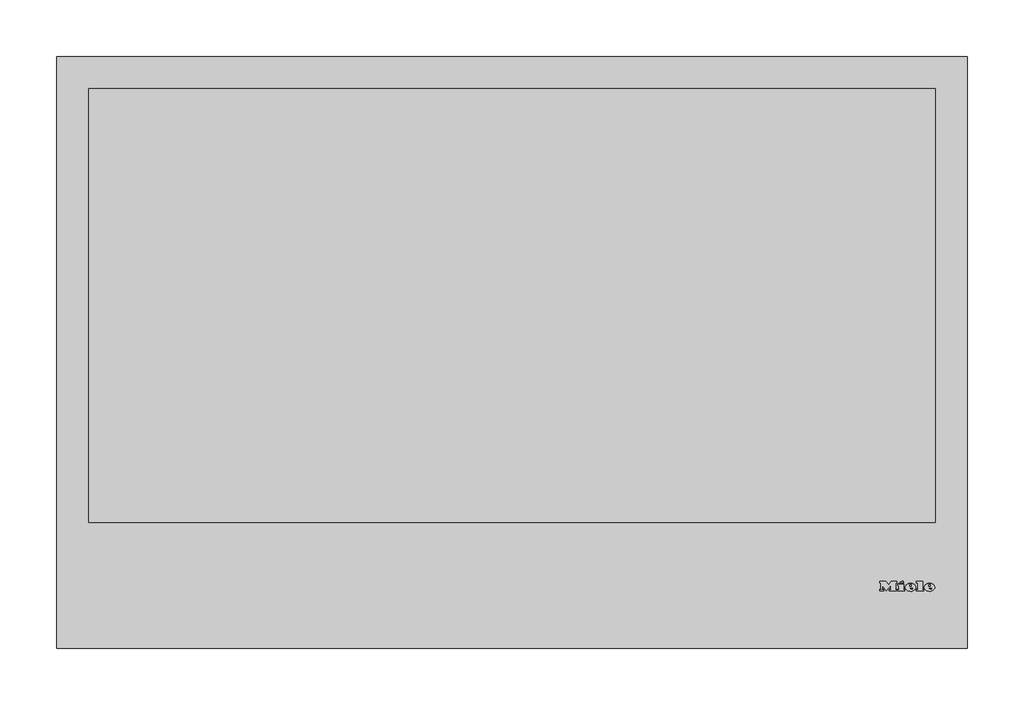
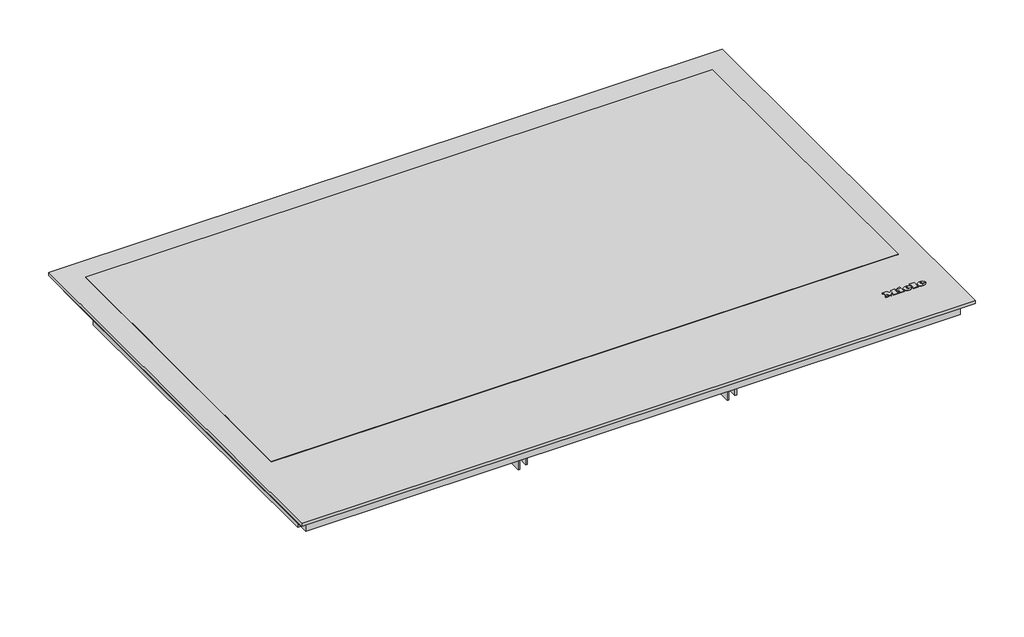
# Not in any storey: 1 proxy.
"""IFC4 building model written with IfcOpenShell, lengths in millimetres."""

import ifcopenshell
import ifcopenshell.guid

model = None  # the IFC model being written
_history = None  # IfcOwnerHistory: only IFC2X3 demands one
_inside = {}  # id of a spatial element -> (the spatial element, [elements in it])
_under = {}  # id of a project, library or spatial element -> (it, [spatial elements below it])
_declared = {}  # id of a project -> (the project, [libraries it declares])
_typed = {}  # id of a type object -> (the type object, [elements of that type])
_made_of = {}  # id of a material, layer set ... -> (it, [elements and type objects made of it])


def new_model(schema):
    """Start an empty IFC model of exactly this schema.

    Asked for "IFC4X3", IfcOpenShell would pick the latest addendum, in which some entities
    have other attributes; the version numbers below select the first issue.
    IFC2X3 requires an IfcOwnerHistory on every rooted entity: one is made here for all.
    """
    global model, _history
    if schema == "IFC4X3":
        model = ifcopenshell.file(schema_version=(4, 3, 0, 0))
    else:
        model = ifcopenshell.file(schema=schema)
    _inside.clear()
    _under.clear()
    _declared.clear()
    _typed.clear()
    _made_of.clear()
    _history = None
    if model.schema == "IFC2X3":
        org = make("IfcOrganization", Name="unknown")
        user = make(
            "IfcPersonAndOrganization",
            ThePerson=make("IfcPerson", FamilyName="unknown"),
            TheOrganization=org,
        )
        app = make(
            "IfcApplication",
            ApplicationDeveloper=org,
            Version="unknown",
            ApplicationFullName="unknown",
            ApplicationIdentifier="unknown",
        )
        _history = make(
            "IfcOwnerHistory",
            OwningUser=user,
            OwningApplication=app,
            ChangeAction="ADDED",
            CreationDate=0,
        )
    return model


def make(cls, **values):
    """One entity of the class cls with the attributes given. An attribute that is None is left unset."""
    return model.create_entity(
        cls, **{name: value for name, value in values.items() if value is not None}
    )


def rooted(cls, **values):
    """An entity with a GlobalId (a new one), such as an element, a storey or a relation."""
    return make(cls, GlobalId=ifcopenshell.guid.new(), OwnerHistory=_history, **values)


def si_unit(unit_type, name, prefix=None):
    """IfcSIUnit, for example si_unit("LENGTHUNIT", "METRE", prefix="MILLI")."""
    return make("IfcSIUnit", UnitType=unit_type, Prefix=prefix, Name=name)


def assignment(units):
    """IfcUnitAssignment: the units of a project."""
    return None if units is None else make("IfcUnitAssignment", Units=units)


def point(xyz):
    """IfcCartesianPoint."""
    return None if xyz is None else make("IfcCartesianPoint", Coordinates=xyz)


def direction(xyz):
    """IfcDirection."""
    return None if xyz is None else make("IfcDirection", DirectionRatios=xyz)


def frame(location, z_axis=None, x_axis=None):
    """IfcAxis2Placement3D, a coordinate frame: its origin and axes. An axis left out is left unset."""
    return make(
        "IfcAxis2Placement3D",
        Location=point(location),
        Axis=direction(z_axis),
        RefDirection=direction(x_axis),
    )


def frame_2d(location, x_axis=None):
    """IfcAxis2Placement2D, a coordinate frame in the plane: its origin and x axis."""
    return make(
        "IfcAxis2Placement2D", Location=point(location), RefDirection=direction(x_axis)
    )


def origin():
    """The frame at (0, 0, 0) with its axes left unset."""
    return frame((0.0, 0.0, 0.0))


def origin_with_axes():
    """The frame at (0, 0, 0) with the z axis (0, 0, 1) and the x axis (1, 0, 0) written out."""
    return frame((0.0, 0.0, 0.0), z_axis=(0.0, 0.0, 1.0), x_axis=(1.0, 0.0, 0.0))


def place(relative_to, where):
    """IfcLocalPlacement: puts the frame where relative to a parent placement (None: the world)."""
    return make(
        "IfcLocalPlacement", PlacementRelTo=relative_to, RelativePlacement=where
    )


def context(
    kind, dimensions, precision=None, world=None, true_north=None, identifier=None
):
    """IfcGeometricRepresentationContext, for example the 3D "Model" context."""
    return make(
        "IfcGeometricRepresentationContext",
        ContextIdentifier=identifier,
        ContextType=kind,
        CoordinateSpaceDimension=dimensions,
        Precision=precision,
        WorldCoordinateSystem=world,
        TrueNorth=true_north,
    )


def project(units=None, contexts=None):
    """IfcProject with its units and contexts."""
    return rooted(
        "IfcProject",
        Name="project",
        RepresentationContexts=contexts,
        UnitsInContext=assignment(units),
    )


def spatial(cls, under=None, at=None, **own):
    """A site, building, storey or space (cls), placed at a placement, below another one or the project."""
    s = rooted(cls, ObjectPlacement=at, **own)
    if under is not None:
        _under.setdefault(under.id(), (under, []))[1].append(s)
    return s


def polyline(points):
    """IfcPolyline through the points."""
    return make("IfcPolyline", Points=[point(p) for p in points])


def circle_curve(where, radius):
    """IfcCircle in the frame where."""
    return make("IfcCircle", Position=where, Radius=radius)


def ellipse_curve(where, semi_axis1, semi_axis2):
    """IfcEllipse in the frame where."""
    return make(
        "IfcEllipse", Position=where, SemiAxis1=semi_axis1, SemiAxis2=semi_axis2
    )


def trimmed(basis, trim1, trim2, sense, master):
    """IfcTrimmedCurve: the piece of a basis curve between two trims."""
    return make(
        "IfcTrimmedCurve",
        BasisCurve=basis,
        Trim1=trim1,
        Trim2=trim2,
        SenseAgreement=sense,
        MasterRepresentation=master,
    )


def segment(curve, same_sense, transition):
    """IfcCompositeCurveSegment."""
    return make(
        "IfcCompositeCurveSegment",
        Transition=transition,
        SameSense=same_sense,
        ParentCurve=curve,
    )


def composite_curve(segments, self_intersect=None):
    """IfcCompositeCurve: segments joined end to end."""
    return make("IfcCompositeCurve", Segments=segments, SelfIntersect=self_intersect)


def outline(outer, holes=None, kind="AREA"):
    """IfcArbitraryClosedProfileDef: a profile drawn as a closed curve; with holes, ...WithVoids."""
    if holes is None:
        return make("IfcArbitraryClosedProfileDef", ProfileType=kind, OuterCurve=outer)
    return make(
        "IfcArbitraryProfileDefWithVoids",
        ProfileType=kind,
        OuterCurve=outer,
        InnerCurves=holes,
    )


def extrude(swept, where, along, depth):
    """IfcExtrudedAreaSolid: the profile swept, set in the frame where, extruded along a direction by depth."""
    return make(
        "IfcExtrudedAreaSolid",
        SweptArea=swept,
        Position=where,
        ExtrudedDirection=direction(along),
        Depth=depth,
    )


def shape(context_of_items, identifier, shape_type, items):
    """IfcShapeRepresentation: the items that make up one representation, for example the "Body"."""
    return make(
        "IfcShapeRepresentation",
        ContextOfItems=context_of_items,
        RepresentationIdentifier=identifier,
        RepresentationType=shape_type,
        Items=items,
    )


def source(mapping_origin, context_of_items, identifier, shape_type, items):
    """IfcRepresentationMap: a shape defined once, which mapped items show again and again."""
    return make(
        "IfcRepresentationMap",
        MappingOrigin=mapping_origin,
        MappedRepresentation=shape(context_of_items, identifier, shape_type, items),
    )


def transform(
    local_origin,
    x_axis=None,
    y_axis=None,
    z_axis=None,
    scale=None,
    scale2=None,
    scale3=None,
    uniform=True,
):
    """IfcCartesianTransformationOperator3D, or its non-uniform kind. x_axis, y_axis, z_axis: its Axis1, 2, 3."""
    if uniform:
        return make(
            "IfcCartesianTransformationOperator3D",
            Axis1=direction(x_axis),
            Axis2=direction(y_axis),
            LocalOrigin=point(local_origin),
            Scale=scale,
            Axis3=direction(z_axis),
        )
    return make(
        "IfcCartesianTransformationOperator3DnonUniform",
        Axis1=direction(x_axis),
        Axis2=direction(y_axis),
        LocalOrigin=point(local_origin),
        Scale=scale,
        Axis3=direction(z_axis),
        Scale2=scale2,
        Scale3=scale3,
    )


def mapped(mapping_source, mapping_target):
    """IfcMappedItem: shows the shape of a source again, moved by a transform."""
    return make(
        "IfcMappedItem", MappingSource=mapping_source, MappingTarget=mapping_target
    )


def made_of(thing, what):
    """Note that an element or type object is made of a material, layer set ...; save() writes the relation."""
    if what is not None:
        _made_of.setdefault(what.id(), (what, []))[1].append(thing)
    return thing


def element(
    cls,
    number,
    at=None,
    inside=None,
    cuts=None,
    type_object=None,
    material=None,
    context=None,
    identifier="Body",
    shape_type=None,
    held_by="IfcProductDefinitionShape",
    body=None,
    shapes=None,
    **own,
):
    """One element of the class cls, such as IfcWall. Its Tag is "e" and its number.

    at: its placement. inside: the storey or other place that contains it. cuts: it is an
    opening in that element (IfcRelVoidsElement). A single representation is given by context,
    identifier, shape_type and body (its items); several are given by shapes. held_by: the class
    of the entity that holds the representations. save() writes the other relations.
    """
    e = rooted(cls, Tag="e%d" % number, ObjectPlacement=at, **own)
    if body is not None:
        shapes = [shape(context, identifier, shape_type, body)]
    if shapes is not None:
        e.Representation = make(held_by, Representations=shapes)
    if inside is not None:
        _inside.setdefault(inside.id(), (inside, []))[1].append(e)
    if cuts is not None:
        rooted(
            "IfcRelVoidsElement", RelatingBuildingElement=cuts, RelatedOpeningElement=e
        )
    if type_object is not None:
        _typed.setdefault(type_object.id(), (type_object, []))[1].append(e)
    return made_of(e, material)


def aggregate(whole, parts):
    """IfcRelAggregates: a whole, such as a stair, and the parts it consists of."""
    return rooted("IfcRelAggregates", RelatingObject=whole, RelatedObjects=parts)


def save(model, path):
    """Write the relations noted so far, then the file.

    IfcRelAggregates (storeys below a building ...), IfcRelContainedInSpatialStructure (elements
    in a storey), IfcRelDefinesByType, IfcRelAssociatesMaterial and IfcRelDeclares: one each for
    every whole, place, type object, material and project.
    """
    for whole, parts in _under.values():
        aggregate(whole, parts)
    for where, things in _inside.values():
        rooted(
            "IfcRelContainedInSpatialStructure",
            RelatedElements=things,
            RelatingStructure=where,
        )
    for kind, things in _typed.values():
        rooted("IfcRelDefinesByType", RelatedObjects=things, RelatingType=kind)
    for what, things in _made_of.values():
        rooted("IfcRelAssociatesMaterial", RelatedObjects=things, RelatingMaterial=what)
    for by, libraries in _declared.values():
        rooted("IfcRelDeclares", RelatingContext=by, RelatedDefinitions=libraries)
    model.write(path)


def plane_surface(at):
    """IfcPlane: the flat surface through the origin of the frame at, square to its z axis."""
    return make("IfcPlane", Position=at)


def cylinder_surface(at, radius):
    """IfcCylindricalSurface: all points at the distance radius from the z axis of the frame at."""
    return make("IfcCylindricalSurface", Position=at, Radius=radius)


def revolved_surface(curve, axis_point, axis_direction):
    """IfcSurfaceOfRevolution: the curve turned about the line through axis_point along axis_direction."""
    return make(
        "IfcSurfaceOfRevolution",
        SweptCurve=make("IfcArbitraryOpenProfileDef", ProfileType="CURVE", Curve=curve),
        AxisPosition=make("IfcAxis1Placement", Location=point(axis_point), Axis=direction(axis_direction)),
    )


def extruded_surface(curve, direction_of_extrusion, depth):
    """IfcSurfaceOfLinearExtrusion: the curve pushed along a direction by depth."""
    return make(
        "IfcSurfaceOfLinearExtrusion",
        SweptCurve=make("IfcArbitraryOpenProfileDef", ProfileType="CURVE", Curve=curve),
        ExtrudedDirection=direction(direction_of_extrusion),
        Depth=depth,
    )


def advanced_brep(points, edges, surfaces, faces):
    """IfcAdvancedBrep: a solid bounded by faces that lie on surfaces and meet in shared edges.

    An edge is (start, end): straight between two places in points (the first is 0);
    or (start, end, curve); or (start, end, curve, False) where it runs against its curve.
    A face is (place in surfaces, loops), or (place, loops, False) where it looks against
    its surface's normal. A loop lists edges by number (the first is 1), with a minus sign
    where the edge is run from its end to its start. The first loop is the outer one.
    """
    corners = [point(p) for p in points]
    vertices = [make("IfcVertexPoint", VertexGeometry=c) for c in corners]
    made = []
    for start, end, *more in edges:
        made.append(
            make(
                "IfcEdgeCurve",
                EdgeStart=vertices[start],
                EdgeEnd=vertices[end],
                EdgeGeometry=more[0] if more else make("IfcPolyline", Points=[corners[start], corners[end]]),
                SameSense=more[1] if len(more) > 1 else True,
            )
        )
    hull = []
    for where, loops, *sense in faces:
        bounds = []
        for j, loop in enumerate(loops):
            ring = [make("IfcOrientedEdge", EdgeElement=made[abs(k) - 1], Orientation=k > 0) for k in loop]
            bounds.append(
                make(
                    "IfcFaceOuterBound" if j == 0 else "IfcFaceBound",
                    Bound=make("IfcEdgeLoop", EdgeList=ring),
                    Orientation=True,
                )
            )
        hull.append(make("IfcAdvancedFace", Bounds=bounds, FaceSurface=surfaces[where], SameSense=sense[0] if sense else True))
    return make("IfcAdvancedBrep", Outer=make("IfcClosedShell", CfsFaces=hull))


def specialty_equipment_21553ecd(model_context):
    return source(origin(), model_context, "Body", "SolidModel", [
        advanced_brep(
        [(366.36, 52.3948833, 4.4802537), (366.36, 53.2028828, 4.4811551), (371.712, 53.2028828, 4.4811551), (362.4, 53.2028828, 4.4811551), (364.6, 50.4988845, 4.4781386), (371.576, 52.3948833, 4.4802537), (369.16, 52.3948833, 4.4802537), (367.256, 51.4988838, 4.4792542), (366.36, 54.2268821, 4.4822974), (366.36, 55.0988816, 4.4832701), (367.728, 55.0988816, 4.4832701), (367.728, 54.2268821, 4.4822974), (366.36, 52.3959988, 3.4802543), (367.256, 51.4999994, 3.4792548), (369.16, 52.3959988, 3.4802543), (371.576, 52.3959988, 3.4802543), (364.6, 50.5, 3.4781393), (362.4, 53.2039983, 3.4811557), (371.712, 53.2039983, 3.4811557), (366.36, 53.2039983, 3.4811557), (366.36, 54.2279977, 3.482298), (367.728, 54.2279977, 3.482298), (367.728, 55.0999971, 3.4832707), (366.36, 55.0999971, 3.4832707)],
        [
            (0, 1),
            (1, 2),
            (2, 3, ellipse_curve(frame((367.056, 53.2028828, 4.4811551), z_axis=(0.0, -0.0011155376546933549, 0.9999993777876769), x_axis=(-1.0, 0.0, 0.0)), 4.656, 3.848)),
            (3, 4, circle_curve(frame((365.4960436, 53.4748826, 4.4814585), z_axis=(0.0, -0.0011155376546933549, 0.9999993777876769), x_axis=(0.0, -0.9999993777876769, -0.0011155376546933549)), 3.1079688)),
            (4, 5, circle_curve(frame((366.9627936, 55.5868813, 4.4838145), z_axis=(0.0, -0.0011155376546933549, 0.9999993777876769), x_axis=(0.0, -0.9999993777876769, -0.0011155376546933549)), 5.6098607)),
            (5, 6),
            (6, 7, circle_curve(frame((367.6470588, 53.1388828, 4.4810837), z_axis=(0.0, 0.0011155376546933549, -0.9999993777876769), x_axis=(0.0, -0.9999993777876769, -0.0011155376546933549)), 1.6859795)),
            (7, 0, circle_curve(frame((367.256, 52.3948833, 4.4802537), z_axis=(0.0, 0.0011155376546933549, -0.9999993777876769), x_axis=(0.0, -0.9999993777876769, -0.0011155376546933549)), 0.896)),
            (8, 9),
            (9, 10, circle_curve(frame((367.044, 55.0988816, 4.4832701), z_axis=(0.0, 0.0011155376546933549, -0.9999993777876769), x_axis=(0.0, -0.9999993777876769, -0.0011155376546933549)), 0.684)),
            (10, 11),
            (11, 8),
            (12, 13, circle_curve(frame((367.256, 52.3959988, 3.4802543), z_axis=(0.0, -0.0011155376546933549, 0.9999993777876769), x_axis=(0.0, -0.9999993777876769, -0.0011155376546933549)), 0.896)),
            (13, 14, circle_curve(frame((367.6470588, 53.1399984, 3.4810843), z_axis=(0.0, -0.0011155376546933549, 0.9999993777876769), x_axis=(0.0, -0.9999993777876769, -0.0011155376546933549)), 1.6859795)),
            (14, 15),
            (15, 16, circle_curve(frame((366.9627936, 55.5879968, 3.4838151), z_axis=(0.0, 0.0011155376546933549, -0.9999993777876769), x_axis=(0.0, -0.9999993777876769, -0.0011155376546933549)), 5.6098607)),
            (16, 17, circle_curve(frame((365.4960436, 53.4759981, 3.4814591), z_axis=(0.0, 0.0011155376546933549, -0.9999993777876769), x_axis=(0.0, -0.9999993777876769, -0.0011155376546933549)), 3.1079688)),
            (17, 18, ellipse_curve(frame((367.056, 53.2039983, 3.4811557), z_axis=(0.0, 0.0011155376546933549, -0.9999993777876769), x_axis=(-1.0, 0.0, 0.0)), 4.656, 3.848)),
            (18, 19),
            (19, 12),
            (20, 21),
            (21, 22),
            (22, 23, circle_curve(frame((367.044, 55.0999971, 3.4832707), z_axis=(0.0, -0.0011155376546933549, 0.9999993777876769), x_axis=(0.0, -0.9999993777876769, -0.0011155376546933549)), 0.684)),
            (23, 20),
            (0, 12),
            (19, 1),
            (18, 2),
            (5, 15),
            (14, 6),
            (17, 3),
            (13, 7),
            (16, 4),
            (8, 20),
            (23, 9),
            (22, 10),
            (21, 11),
        ],
        [
            plane_surface(frame((366.36, 53.2028828, 4.4811551), z_axis=(0.0, -0.0011155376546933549, 0.9999993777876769), x_axis=(0.0, 0.9999993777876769, 0.0011155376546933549))),
            plane_surface(frame((366.36, 53.2039983, 3.4811557), z_axis=(0.0, 0.0011155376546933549, -0.9999993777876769), x_axis=(0.0, -0.9999993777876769, -0.0011155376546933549))),
            plane_surface(frame((366.36, 52.3948833, 4.4802537), z_axis=(1.0000000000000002, 0.0, 0.0), x_axis=(0.0, 0.001115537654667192, -0.999999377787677))),
            plane_surface(frame((366.36, 53.2028828, 4.4811551), z_axis=(0.0, -0.999999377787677, -0.001115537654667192), x_axis=(0.0, 0.001115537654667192, -0.999999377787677))),
            plane_surface(frame((371.576, 52.3948833, 4.4802537), z_axis=(0.0, 0.999999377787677, 0.001115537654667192), x_axis=(0.0, 0.001115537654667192, -0.999999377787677))),
            extruded_surface(trimmed(ellipse_curve(frame((367.056, 53.2051139, 2.4811563), z_axis=(0.0, -0.0011155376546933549, 0.9999993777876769), x_axis=(-1.0, 0.0, 0.0)), 4.656, 3.848), [point((371.712, 53.2051139, 2.4811563))], [point((362.4, 53.2051139, 2.4811563))], True, "CARTESIAN"), (0.0, -0.001115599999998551, 0.9999994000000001), 1.00000002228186),
            revolved_surface(polyline([(367.6470588, 51.454019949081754, 3.479203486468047), (367.6470588, 51.45290441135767, 4.4792029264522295)]), (367.6470588, 53.1399984, 3.4810843), (0.0, 0.0011155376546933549, -0.9999993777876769)),
            revolved_surface(polyline([(367.256, 51.49999935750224, 3.4792547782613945), (367.256, 51.49888381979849, 4.479254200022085)]), (367.256, 52.3959988, 3.4802543), (0.0, 0.0011155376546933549, -0.9999993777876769)),
            cylinder_surface(frame((365.4960436, 53.4759981, 3.4814591), z_axis=(0.0, -0.0011155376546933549, 0.9999993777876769), x_axis=(0.0, -0.9999993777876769, -0.0011155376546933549)), 3.1079688),
            cylinder_surface(frame((366.9627936, 55.5879968, 3.4838151), z_axis=(0.0, -0.0011155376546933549, 0.9999993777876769), x_axis=(0.0, -0.9999993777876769, -0.0011155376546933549)), 5.6098607),
            plane_surface(frame((366.36, 54.2268821, 4.4822974), z_axis=(1.0000000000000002, 0.0, 0.0), x_axis=(0.0, 0.001115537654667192, -0.999999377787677))),
            revolved_surface(polyline([(367.044, 54.415997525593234, 3.4825076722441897), (367.044, 54.41488198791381, 4.482507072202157)]), (367.044, 55.0999971, 3.4832707), (0.0, 0.0011155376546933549, -0.9999993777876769)),
            plane_surface(frame((367.728, 55.0988816, 4.4832701), z_axis=(-1.0000000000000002, 0.0, 0.0), x_axis=(0.0, 0.001115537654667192, -0.999999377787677))),
            plane_surface(frame((367.728, 54.2268821, 4.4822974), z_axis=(0.0, 0.999999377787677, 0.001115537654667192), x_axis=(0.0, 0.001115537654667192, -0.999999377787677))),
        ],
        [
            (0, [[1, 2, 3, 4, 5, 6, 7, 8], [9, 10, 11, 12]]),
            (1, [[13, 14, 15, 16, 17, 18, 19, 20], [21, 22, 23, 24]]),
            (2, [[-1, 25, -20, 26]]),
            (3, [[-2, -26, -19, 27]]),
            (4, [[-6, 28, -15, 29]]),
            (5, [[-3, -27, -18, 30]]),
            (6, [[-7, -29, -14, 31]]),
            (7, [[-8, -31, -13, -25]]),
            (8, [[-4, -30, -17, 32]]),
            (9, [[-5, -32, -16, -28]]),
            (10, [[-9, 33, -24, 34]]),
            (11, [[-10, -34, -23, 35]]),
            (12, [[-11, -35, -22, 36]]),
            (13, [[-12, -36, -21, -33]]),
        ],
    ),
        advanced_brep(
        [(349.664, 52.3948833, 4.4802537), (349.664, 53.2028828, 4.4811551), (355.016, 53.2028828, 4.4811551), (345.704, 53.2028828, 4.4811551), (347.904, 50.4988845, 4.4781386), (354.88, 52.3948833, 4.4802537), (352.464, 52.3948833, 4.4802537), (350.56, 51.4988838, 4.4792542), (349.664, 54.2268821, 4.4822974), (349.664, 55.0988816, 4.4832701), (351.032, 55.0988816, 4.4832701), (351.032, 54.2268821, 4.4822974), (349.664, 52.3959988, 3.4802543), (350.56, 51.4999994, 3.4792548), (352.464, 52.3959988, 3.4802543), (354.88, 52.3959988, 3.4802543), (347.904, 50.5, 3.4781393), (345.704, 53.2039983, 3.4811557), (355.016, 53.2039983, 3.4811557), (349.664, 53.2039983, 3.4811557), (349.664, 54.2279977, 3.482298), (351.032, 54.2279977, 3.482298), (351.032, 55.0999971, 3.4832707), (349.664, 55.0999971, 3.4832707)],
        [
            (0, 1),
            (1, 2),
            (2, 3, ellipse_curve(frame((350.36, 53.2028828, 4.4811551), z_axis=(0.0, -0.0011155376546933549, 0.9999993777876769), x_axis=(-1.0, 0.0, 0.0)), 4.656, 3.848)),
            (3, 4, circle_curve(frame((348.8000436, 53.4748826, 4.4814585), z_axis=(0.0, -0.0011155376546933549, 0.9999993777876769), x_axis=(0.0, -0.9999993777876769, -0.0011155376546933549)), 3.1079688)),
            (4, 5, circle_curve(frame((350.2667936, 55.5868813, 4.4838145), z_axis=(0.0, -0.0011155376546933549, 0.9999993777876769), x_axis=(0.0, -0.9999993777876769, -0.0011155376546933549)), 5.6098607)),
            (5, 6),
            (6, 7, circle_curve(frame((350.9510588, 53.1388828, 4.4810837), z_axis=(0.0, 0.0011155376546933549, -0.9999993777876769), x_axis=(0.0, -0.9999993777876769, -0.0011155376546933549)), 1.6859795)),
            (7, 0, circle_curve(frame((350.56, 52.3948833, 4.4802537), z_axis=(0.0, 0.0011155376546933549, -0.9999993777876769), x_axis=(0.0, -0.9999993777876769, -0.0011155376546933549)), 0.896)),
            (8, 9),
            (9, 10, circle_curve(frame((350.348, 55.0988816, 4.4832701), z_axis=(0.0, 0.0011155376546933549, -0.9999993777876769), x_axis=(0.0, -0.9999993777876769, -0.0011155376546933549)), 0.684)),
            (10, 11),
            (11, 8),
            (12, 13, circle_curve(frame((350.56, 52.3959988, 3.4802543), z_axis=(0.0, -0.0011155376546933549, 0.9999993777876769), x_axis=(0.0, -0.9999993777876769, -0.0011155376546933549)), 0.896)),
            (13, 14, circle_curve(frame((350.9510588, 53.1399984, 3.4810843), z_axis=(0.0, -0.0011155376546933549, 0.9999993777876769), x_axis=(0.0, -0.9999993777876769, -0.0011155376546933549)), 1.6859795)),
            (14, 15),
            (15, 16, circle_curve(frame((350.2667936, 55.5879968, 3.4838151), z_axis=(0.0, 0.0011155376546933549, -0.9999993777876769), x_axis=(0.0, -0.9999993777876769, -0.0011155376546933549)), 5.6098607)),
            (16, 17, circle_curve(frame((348.8000436, 53.4759981, 3.4814591), z_axis=(0.0, 0.0011155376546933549, -0.9999993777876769), x_axis=(0.0, -0.9999993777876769, -0.0011155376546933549)), 3.1079688)),
            (17, 18, ellipse_curve(frame((350.36, 53.2039983, 3.4811557), z_axis=(0.0, 0.0011155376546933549, -0.9999993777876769), x_axis=(-1.0, 0.0, 0.0)), 4.656, 3.848)),
            (18, 19),
            (19, 12),
            (20, 21),
            (21, 22),
            (22, 23, circle_curve(frame((350.348, 55.0999971, 3.4832707), z_axis=(0.0, -0.0011155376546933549, 0.9999993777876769), x_axis=(0.0, -0.9999993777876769, -0.0011155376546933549)), 0.684)),
            (23, 20),
            (0, 12),
            (19, 1),
            (18, 2),
            (5, 15),
            (14, 6),
            (17, 3),
            (13, 7),
            (16, 4),
            (8, 20),
            (23, 9),
            (22, 10),
            (21, 11),
        ],
        [
            plane_surface(frame((349.664, 53.2028828, 4.4811551), z_axis=(0.0, -0.0011155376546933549, 0.9999993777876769), x_axis=(0.0, 0.9999993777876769, 0.0011155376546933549))),
            plane_surface(frame((349.664, 53.2039983, 3.4811557), z_axis=(0.0, 0.0011155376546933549, -0.9999993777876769), x_axis=(0.0, -0.9999993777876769, -0.0011155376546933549))),
            plane_surface(frame((349.664, 52.3948833, 4.4802537), z_axis=(1.0000000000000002, 0.0, 0.0), x_axis=(0.0, 0.001115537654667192, -0.999999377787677))),
            plane_surface(frame((349.664, 53.2028828, 4.4811551), z_axis=(0.0, -0.999999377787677, -0.001115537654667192), x_axis=(0.0, 0.001115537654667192, -0.999999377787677))),
            plane_surface(frame((354.88, 52.3948833, 4.4802537), z_axis=(0.0, 0.999999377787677, 0.001115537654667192), x_axis=(0.0, 0.001115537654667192, -0.999999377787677))),
            extruded_surface(trimmed(ellipse_curve(frame((350.36, 53.2051139, 2.4811563), z_axis=(0.0, -0.0011155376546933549, 0.9999993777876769), x_axis=(-1.0, 0.0, 0.0)), 4.656, 3.848), [point((355.016, 53.2051139, 2.4811563))], [point((345.704, 53.2051139, 2.4811563))], True, "CARTESIAN"), (0.0, -0.001115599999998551, 0.9999994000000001), 1.00000002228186),
            revolved_surface(polyline([(350.9510588, 51.454019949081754, 3.479203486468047), (350.9510588, 51.45290441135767, 4.4792029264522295)]), (350.9510588, 53.1399984, 3.4810843), (0.0, 0.0011155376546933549, -0.9999993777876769)),
            revolved_surface(polyline([(350.56, 51.49999935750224, 3.4792547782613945), (350.56, 51.49888381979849, 4.479254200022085)]), (350.56, 52.3959988, 3.4802543), (0.0, 0.0011155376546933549, -0.9999993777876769)),
            cylinder_surface(frame((348.8000436, 53.4759981, 3.4814591), z_axis=(0.0, -0.0011155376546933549, 0.9999993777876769), x_axis=(0.0, -0.9999993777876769, -0.0011155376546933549)), 3.1079688),
            cylinder_surface(frame((350.2667936, 55.5879968, 3.4838151), z_axis=(0.0, -0.0011155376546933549, 0.9999993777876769), x_axis=(0.0, -0.9999993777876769, -0.0011155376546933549)), 5.6098607),
            plane_surface(frame((349.664, 54.2268821, 4.4822974), z_axis=(1.0000000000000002, 0.0, 0.0), x_axis=(0.0, 0.001115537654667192, -0.999999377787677))),
            revolved_surface(polyline([(350.348, 54.415997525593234, 3.4825076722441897), (350.348, 54.41488198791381, 4.482507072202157)]), (350.348, 55.0999971, 3.4832707), (0.0, 0.0011155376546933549, -0.9999993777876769)),
            plane_surface(frame((351.032, 55.0988816, 4.4832701), z_axis=(-1.0000000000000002, 0.0, 0.0), x_axis=(0.0, 0.001115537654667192, -0.999999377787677))),
            plane_surface(frame((351.032, 54.2268821, 4.4822974), z_axis=(0.0, 0.999999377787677, 0.001115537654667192), x_axis=(0.0, 0.001115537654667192, -0.999999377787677))),
        ],
        [
            (0, [[1, 2, 3, 4, 5, 6, 7, 8], [9, 10, 11, 12]]),
            (1, [[13, 14, 15, 16, 17, 18, 19, 20], [21, 22, 23, 24]]),
            (2, [[-1, 25, -20, 26]]),
            (3, [[-2, -26, -19, 27]]),
            (4, [[-6, 28, -15, 29]]),
            (5, [[-3, -27, -18, 30]]),
            (6, [[-7, -29, -14, 31]]),
            (7, [[-8, -31, -13, -25]]),
            (8, [[-4, -30, -17, 32]]),
            (9, [[-5, -32, -16, -28]]),
            (10, [[-9, 33, -24, 34]]),
            (11, [[-10, -34, -23, 35]]),
            (12, [[-11, -35, -22, 36]]),
            (13, [[-12, -36, -21, -33]]),
        ],
    ),
        extrude(outline(polyline([(0.0, 0.0), (-0.0109086, -2.9993294), (-1.4390415, -2.9920868), (-1.4315307, 0.0), (0.0, 0.0)])), frame((340.92, 58.0279953, 3.486537), z_axis=(0.0, -0.001115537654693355, 0.999999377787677), x_axis=(-0.4247202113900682, 0.9053240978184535, 0.0010099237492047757)), (0.0, 0.0, 1.0), 1.0),
        extrude(outline(polyline([(-0.4933908, 2.4141097), (-2.7800844, -2.4601583), (-7.0459741, -0.4588767), (-7.4401145, -1.299018), (-8.6568709, -0.728194), (-5.9760369, 4.9862153), (-4.7592805, 4.4153913), (-5.1636142, 3.5535222), (-2.1941493, 2.1604399), (-1.7898157, 3.022309), (-0.4933908, 2.4141097)])), frame((340.92, 58.0279953, 3.486537), z_axis=(0.0, -0.001115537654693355, 0.999999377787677), x_axis=(-0.4247202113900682, 0.9053240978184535, 0.0010099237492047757)), (0.0, 0.0, 1.0), 1.0),
        extrude(outline(polyline([(0.0, 0.0), (0.0, -1.304), (-5.504, -1.304), (-5.504, 5.3519999), (-6.488, 5.3519999), (-6.488, 6.696), (0.0, 6.696), (0.0, 5.3519999), (-0.96, 5.3519999), (-0.96, 0.0), (0.0, 0.0)])), frame((355.464, 57.1959958, 3.4856089), z_axis=(0.0, -0.0011155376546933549, 0.9999993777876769), x_axis=(-1.0, 0.0, 0.0)), (0.0, 0.0, 1.0), 1.0),
        extrude(outline(polyline([(0.0, 0.0), (0.0, -1.304), (-5.576, -1.304), (-7.92, 1.696), (-10.256, -1.304), (-15.128, -1.304), (-15.128, 0.0), (-14.112, 0.0), (-14.112, 5.3519999), (-15.128, 5.3519999), (-15.128, 6.696), (-8.744, 6.696), (-8.744, 5.3519999), (-9.728, 5.3519999), (-9.728, 1.8807777), (-6.136, 6.696), (-2.56, 1.9488752), (-2.56, 5.3519999), (-3.52, 5.3519999), (-3.52, 6.696), (0.0, 6.696), (0.0, 5.3519999), (-0.968, 5.3519999), (-0.968, 0.0), (0.0, 0.0)])), frame((323.0, 57.1959958, 3.4856089), z_axis=(0.0, -0.0011155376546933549, 0.9999993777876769), x_axis=(-1.0, 0.0, 0.0)), (0.0, 0.0, 1.0), 1.0),
        extrude(outline(polyline([(316.2772603, 459.5), (308.9, 459.5), (308.9, 460.7557039), (315.0215564, 460.7557039), (315.0215564, 464.0519266), (309.370889, 464.0519266), (309.370889, 465.3076304), (315.0215564, 465.3076304), (315.0215564, 468.2899271), (309.056963, 468.2899271), (309.056963, 469.545631), (316.2772603, 469.545631), (316.2772603, 459.5)])), frame((0.0, 0.0, -77.5), z_axis=(0.0, 0.0, 1.0), x_axis=(1.0, 0.0, 0.0)), (0.0, 0.0, 1.0), 1.0),
        extrude(outline(polyline([(307.0164442, 459.5), (300.7379248, 459.5), (300.7379248, 460.7557039), (305.7607403, 460.7557039), (305.7607403, 469.545631), (307.0164442, 469.545631), (307.0164442, 459.5)])), frame((0.0, 0.0, -77.5), z_axis=(0.0, 0.0, 1.0), x_axis=(1.0, 0.0, 0.0)), (0.0, 0.0, 1.0), 1.0),
        extrude(outline(polyline([(14.0, -27.0), (14.0, -16.8), (58.0, -16.8), (58.0, -43.0), (30.0, -43.0), (30.0, -27.0), (14.0, -27.0)])), frame((122.6666667, 0.0, 0.0), z_axis=(1.0, 0.0, 0.0), x_axis=(0.0, 1.0, 0.0)), (0.0, 0.0, 1.0), 2.0),
        extrude(outline(polyline([(478.0, -16.8), (506.0, -16.8), (506.0, -27.0), (490.0, -27.0), (490.0, -43.0), (478.0, -43.0), (478.0, -16.8)])), frame((122.6666667, 0.0, 0.0), z_axis=(1.0, 0.0, 0.0), x_axis=(0.0, 1.0, 0.0)), (0.0, 0.0, 1.0), 2.0),
        extrude(outline(polyline([(14.0, -27.0), (14.0, -16.8), (58.0, -16.8), (58.0, -43.0), (30.0, -43.0), (30.0, -27.0), (14.0, -27.0)])), frame((-125.6666667, 0.0, 0.0), z_axis=(1.0, 0.0, 0.0), x_axis=(0.0, 1.0, 0.0)), (0.0, 0.0, 1.0), 2.0),
        extrude(outline(polyline([(490.0, -27.0), (490.0, -43.0), (478.0, -43.0), (478.0, -16.8), (506.0, -16.8), (506.0, -27.0), (490.0, -27.0)])), frame((-125.6666667, 0.0, 0.0), z_axis=(1.0, 0.0, 0.0), x_axis=(0.0, 1.0, 0.0)), (0.0, 0.0, 1.0), 2.0),
        extrude(outline(polyline([(371.0, 478.0), (371.0, 58.0), (-371.0, 58.0), (-371.0, 478.0), (371.0, 478.0)])), frame((0.0, 0.0, -46.5), z_axis=(0.0, 0.0, 1.0), x_axis=(1.0, 0.0, 0.0)), (0.0, 0.0, 1.0), 29.7),
        extrude(outline(polyline([(400.0, 520.0), (400.0, 0.0), (-400.0, 0.0), (-400.0, 520.0), (400.0, 520.0)])), origin_with_axes(), (0.0, 0.0, 1.0), 4.0),
        extrude(outline(polyline([(388.5, 508.5), (388.5, 11.5), (-388.5, 11.5), (-388.5, 508.5), (388.5, 508.5)])), frame((0.0, 0.0, -16.8), z_axis=(0.0, 0.0, 1.0), x_axis=(1.0, 0.0, 0.0)), (0.0, 0.0, 1.0), 16.8),
        extrude(outline(composite_curve([segment(trimmed(circle_curve(frame_2d((308.9, 464.5)), 7.5), [point((308.9, 472.0))], [point((308.9, 457.0))], False, "CARTESIAN"), True, "CONTINUOUS"), segment(trimmed(circle_curve(frame_2d((308.9, 464.5)), 7.5), [point((308.9, 457.0))], [point((308.9, 472.0))], False, "CARTESIAN"), True, "CONTINUOUS")], self_intersect=False)), frame((0.0, 0.0, -76.5), z_axis=(0.0, 0.0, 1.0), x_axis=(1.0, 0.0, 0.0)), (0.0, 0.0, 1.0), 30.0),
        extrude(outline(polyline([(372.0, 492.05), (372.0, 110.55), (-372.0, 110.55), (-372.0, 492.05), (372.0, 492.05)])), frame((0.0, 0.0, 4.0), z_axis=(0.0, 0.0, 1.0), x_axis=(1.0, 0.0, 0.0)), (0.0, 0.0, 1.0), 1.0),
        extrude(outline(composite_curve([segment(trimmed(circle_curve(frame_2d((-381.0, 80.0)), 3.0), [point((-381.0, 83.0))], [point((-381.0, 77.0))], False, "CARTESIAN"), True, "CONTINUOUS"), segment(trimmed(circle_curve(frame_2d((-381.0, 80.0)), 3.0), [point((-381.0, 77.0))], [point((-381.0, 83.0))], False, "CARTESIAN"), True, "CONTINUOUS")], self_intersect=False)), frame((0.0, 0.0, -22.0), z_axis=(0.0, 0.0, 1.0), x_axis=(1.0, 0.0, 0.0)), (0.0, 0.0, 1.0), 5.2),
        extrude(outline(composite_curve([segment(trimmed(circle_curve(frame_2d((381.0, 440.0)), 3.0), [point((381.0, 443.0))], [point((381.0, 437.0))], False, "CARTESIAN"), True, "CONTINUOUS"), segment(trimmed(circle_curve(frame_2d((381.0, 440.0)), 3.0), [point((381.0, 437.0))], [point((381.0, 443.0))], False, "CARTESIAN"), True, "CONTINUOUS")], self_intersect=False)), frame((0.0, 0.0, -22.0), z_axis=(0.0, 0.0, 1.0), x_axis=(1.0, 0.0, 0.0)), (0.0, 0.0, 1.0), 5.2),
    ])


model = new_model("IFC4")

# Units and contexts
model_context = context("Model", 3, world=origin())
ifc_project = project(units=[si_unit("LENGTHUNIT", "METRE", prefix="MILLI")], contexts=[model_context])

# Site, building
site = spatial("IfcSite", under=ifc_project)
building = spatial("IfcBuilding", under=site)

# Proxy
placement = place(None, origin())
specialty_equipment_shape = specialty_equipment_21553ecd(model_context)
element("IfcBuildingElementProxy", 1, Name="11144410_NER_KM7678FL : 26767870_NER_11144410_KM7678FL", ObjectType="11144410_NER_KM7678FL : 26767870_NER_11144410_KM7678FL", at=placement, inside=building, context=model_context, shape_type="MappedRepresentation", body=[
    mapped(specialty_equipment_shape, transform((0.0, 0.0, 0.0), x_axis=(1.0, 0.0, 0.0), y_axis=(0.0, 1.0, 0.0), z_axis=(0.0, 0.0, 1.0))),
])

save(model, "model.ifc")
